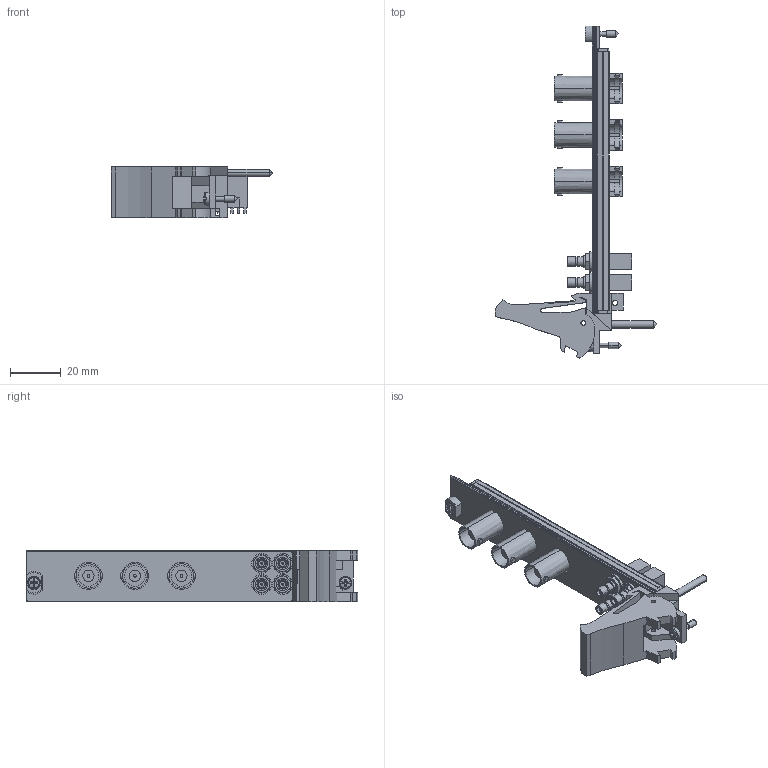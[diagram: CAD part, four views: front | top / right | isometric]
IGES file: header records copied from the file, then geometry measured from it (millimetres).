
Start section:  PTC IGES file: cu_pxie-5160_2ch.igs
Global section: file name: cu_pxie-5160_2ch.igs; native system: Pro/ENGINEER by Parametric Technology Corporation; preprocessor: 2011490; author: jjorden; organization: Unknown; date: 20130326.142818; units: inch
Bounding box: 63.53 x 130.5 x 20.31 mm (x, y, z)
Surface area: 23632.1 mm2 (no closed solid volume)
Topology: 0 solids, 0 shells, 967 faces, 5142 edges, 5134 vertices
Faces by surface type: bspline 630, revolution 337
